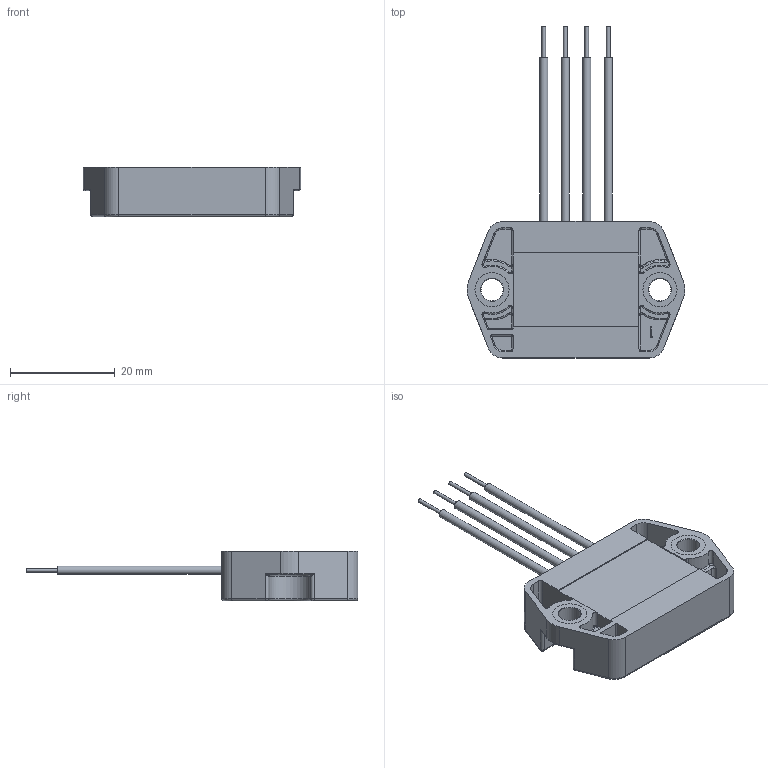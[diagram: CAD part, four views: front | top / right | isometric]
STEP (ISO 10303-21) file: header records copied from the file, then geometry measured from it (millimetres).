
FILE_DESCRIPTION (( 'STEP AP203' ), '1' );
FILE_NAME ('11439 PS2P-ELEC.STEP', '2018-08-30T10:48:15', ( '' ), ( '' ), 'SwSTEP 2.0', 'SolidWorks 2016', '' );
FILE_SCHEMA (( 'CONFIG_CONTROL_DESIGN' ));
Products named in the file (1): 11439 PS2P-ELEC
Bounding box: 41.47 x 63.25 x 9.5 mm (x, y, z)
Volume: 7402.4 mm3; surface area: 5289.5 mm2
Topology: 7 solids, 7 shells, 1726 faces, 4730 edges, 3101 vertices
Faces by surface type: plane 1171, cylinder 438, torus 57, bspline 48, sphere 8, cone 4
Full cylindrical faces by diameter (mm): 0.7 x8, 1.58 x4, 4.2 x2, 5.84 x2, 5.9 x6, 6.5 x8
Entity records: 69279 total; most frequent: CARTESIAN_POINT 32466, ORIENTED_EDGE 9326, DIRECTION 5860, EDGE_CURVE 4663, VERTEX_POINT 3092, AXIS2_PLACEMENT_3D 2020, EDGE_LOOP 1875, VECTOR 1820
